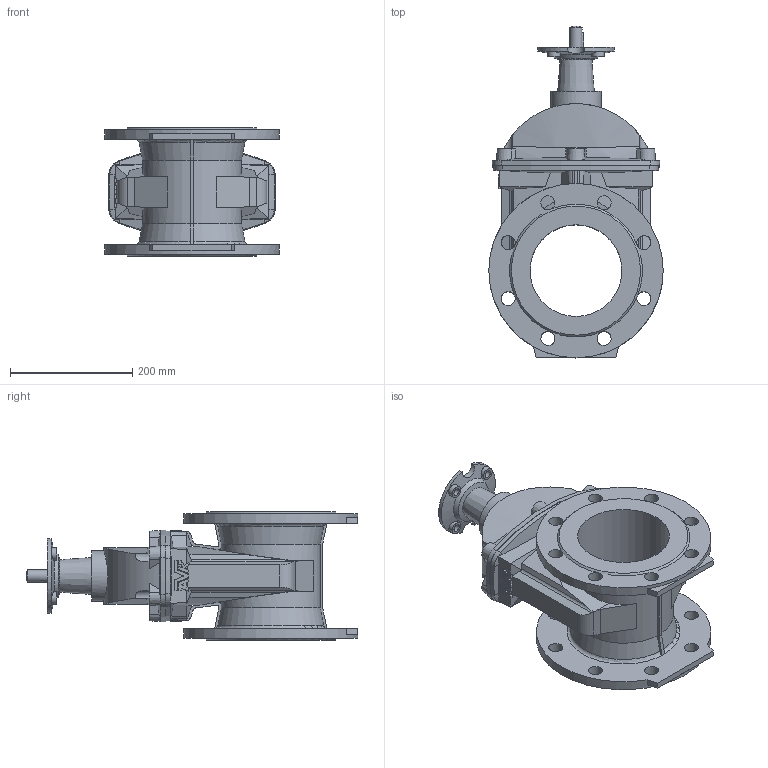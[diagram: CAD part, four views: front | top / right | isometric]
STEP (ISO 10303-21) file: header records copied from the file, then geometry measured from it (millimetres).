
FILE_DESCRIPTION (( 'STEP AP203' ), '1' );
FILE_NAME ('O_15_42_DN150_X1XXX099_AA0.step', '2017-03-10T08:40:21', ( 'Windows User' ), ( 'AVK' ), 'SwSTEP 2.0', 'SolidWorks 2012', '' );
FILE_SCHEMA (( 'CONFIG_CONTROL_DESIGN' ));
Length unit declared in the file: inch
Products named in the file (1): O_15_42_DN150_X1XXX099_AA0
Bounding box: 285 x 542.5 x 210 mm (x, y, z)
Volume: 7217697.8 mm3; surface area: 615297.9 mm2
Topology: 1 solids, 1 shells, 338 faces, 993 edges, 643 vertices
Faces by surface type: plane 165, cylinder 98, cone 59, bspline 12, torus 2, sphere 2
Full cylindrical faces by diameter (mm): 12 x4, 20 x5, 23 x16, 82.4 x1, 150 x1, 285 x2
Entity records: 12636 total; most frequent: CARTESIAN_POINT 4135, ORIENTED_EDGE 1840, DIRECTION 1627, EDGE_CURVE 920, VERTEX_POINT 612, AXIS2_PLACEMENT_3D 584, LINE 459, VECTOR 459
